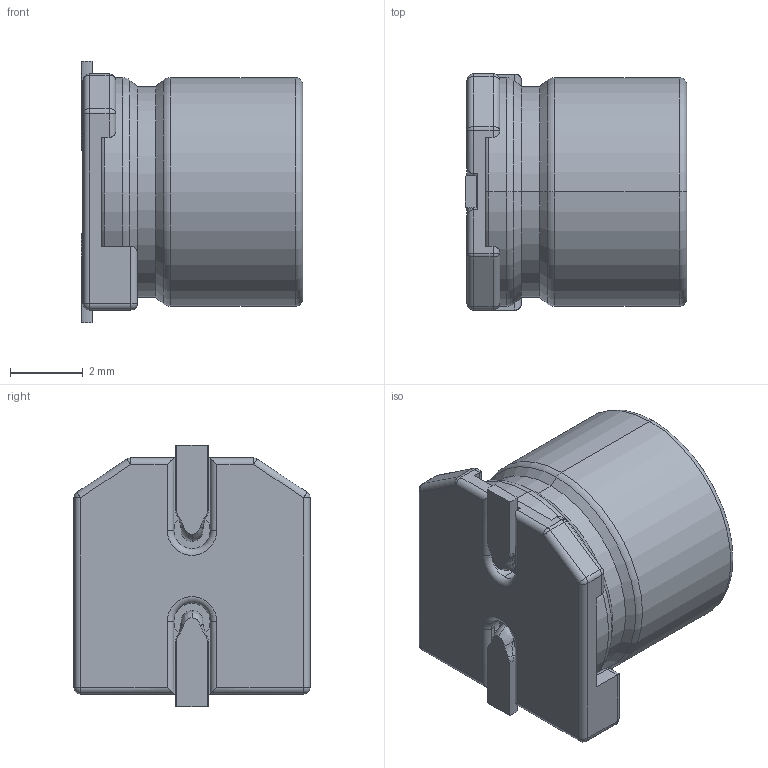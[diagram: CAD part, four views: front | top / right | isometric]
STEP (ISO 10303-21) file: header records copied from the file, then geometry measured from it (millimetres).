
FILE_DESCRIPTION((''),'2;1');
FILE_NAME('LIQUIDSMD63X61_ASM','2020-06-03T',('xy'),(''),'PRO/ENGINEER BY PARAMETRIC TECHNOLOGY CORPORATION, 2009380','PRO/ENGINEER BY PARAMETRIC TECHNOLOGY CORPORATION, 2009380','');
FILE_SCHEMA(('CONFIG_CONTROL_DESIGN'));
Length unit declared in the file: millimetre
Products named in the file (3): LIQUIDSMD63X61; ZB6-3A; LIQUIDSMD63X61_ASM
Assembly tree (2 placements, depth 2):
  LIQUIDSMD63X61_ASM
    LIQUIDSMD63X61
    ZB6-3A
Bounding box: 6.1 x 6.5 x 7.2 mm (x, y, z)
Volume: 190.9 mm3; surface area: 293.1 mm2
Topology: 2 solids, 2 shells, 302 faces, 758 edges, 468 vertices
Faces by surface type: plane 168, cylinder 69, bspline 24, sphere 20, torus 17, cone 4
Entity records: 9830 total; most frequent: CARTESIAN_POINT 2643, ORIENTED_EDGE 1508, DIRECTION 1432, EDGE_CURVE 754, VECTOR 518, LINE 518, VERTEX_POINT 468, AXIS2_PLACEMENT_3D 457
